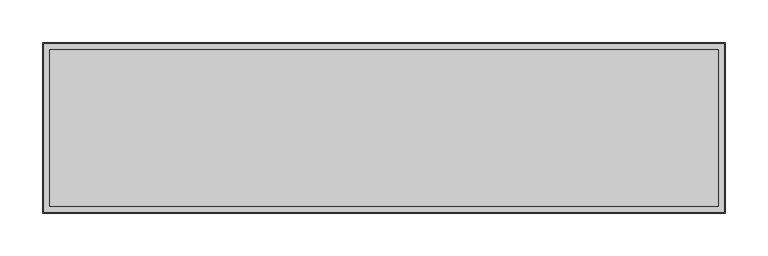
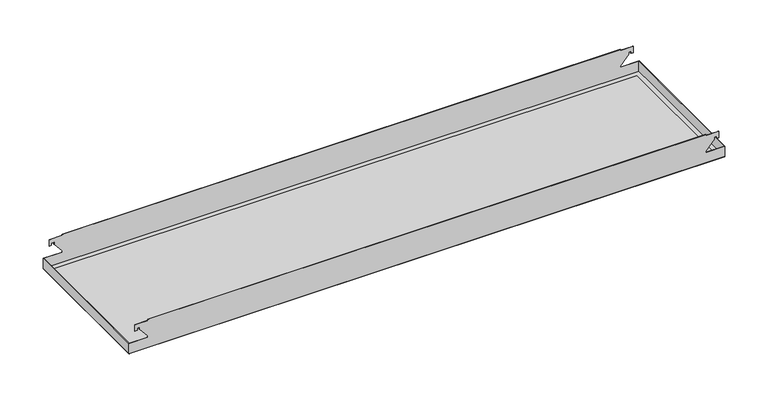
"""IFC4 building model written with IfcOpenShell, lengths in millimetres: proxy geometry, durlum_S10H_panel : durlum_S10H_panel_wall_corner."""

from ifc_helpers import new_model, si_unit, frame, origin, origin_with_axes, place, context, project, spatial, polyline, outline, extrude, faceted_brep, source, transform, mapped, element, save


def generic_models_67fbcb7b(model_context):
    return source(origin(), model_context, "Body", "SolidModel", [
        faceted_brep([(374.2747768, -99.75, 40.0), (374.2747768, -99.15, 40.0), (-374.2747768, -99.15, 40.0), (-374.2747768, -99.75, 40.0), (374.2747768, 99.15, 40.0), (374.2747768, 99.75, 40.0), (-374.2747768, 99.75, 40.0), (-374.2747768, 99.15, 40.0), (399.75, 99.75, 0.6), (399.75, -99.75, 0.6), (-399.75, -99.75, 0.6), (-399.75, 99.75, 0.6), (399.15, 99.15, 0.6), (-399.15, 99.15, 0.6), (-399.15, -99.15, 0.6), (399.15, -99.15, 0.6), (-399.75, 99.75, 14.6527788), (-374.2747768, 99.75, 14.6527788), (-374.2747768, 99.75, 16.6023513), (-385.3561673, 99.75, 29.8086382), (-385.3561673, 99.75, 32.5809806), (-388.8907761, 99.75, 32.5809806), (-388.8907761, 99.75, 29.4726287), (-391.75, 99.75, 29.4726287), (-391.75, 99.75, 38.4781412), (-374.2747768, 99.75, 38.4781412), (374.2747768, 99.75, 38.4781412), (391.75, 99.75, 38.4781412), (391.75, 99.75, 29.4726287), (388.8907761, 99.75, 29.4726287), (388.8907761, 99.75, 32.5809806), (385.3561673, 99.75, 32.5809806), (385.3561673, 99.75, 29.8086382), (374.2747768, 99.75, 16.6023513), (374.2747768, 99.75, 14.6527788), (399.75, 99.75, 14.6527788), (-399.75, -99.75, 14.6527788), (399.75, -99.75, 14.6527788), (374.2747768, -99.75, 14.6527788), (374.2747768, -99.75, 16.6023513), (385.3561673, -99.75, 29.8086382), (385.3561673, -99.75, 32.5809806), (388.8907761, -99.75, 32.5809806), (388.8907761, -99.75, 29.4726287), (391.75, -99.75, 29.4726287), (391.75, -99.75, 38.4781412), (374.2747768, -99.75, 38.4781412), (-374.2747768, -99.75, 38.4781412), (-391.75, -99.75, 38.4781412), (-391.75, -99.75, 29.4726287), (-388.8907761, -99.75, 29.4726287), (-388.8907761, -99.75, 32.5809806), (-385.3561673, -99.75, 32.5809806), (-385.3561673, -99.75, 29.8086382), (-374.2747768, -99.75, 16.6023513), (-374.2747768, -99.75, 14.6527788), (399.15, -99.15, 14.6527788), (399.15, 99.15, 14.6527788), (-399.15, -99.15, 14.6527788), (-374.2747768, -99.15, 14.6527788), (-374.2747768, -99.15, 16.6023513), (-385.3561673, -99.15, 29.8086382), (-385.3561673, -99.15, 32.5809806), (-388.8907761, -99.15, 32.5809806), (-388.8907761, -99.15, 29.4726287), (-391.75, -99.15, 29.4726287), (-391.75, -99.15, 38.4781412), (-374.2747768, -99.15, 38.4781412), (374.2747768, -99.15, 38.4781412), (391.75, -99.15, 38.4781412), (391.75, -99.15, 29.4726287), (388.8907761, -99.15, 29.4726287), (388.8907761, -99.15, 32.5809806), (385.3561673, -99.15, 32.5809806), (385.3561673, -99.15, 29.8086382), (374.2747768, -99.15, 16.6023513), (374.2747768, -99.15, 14.6527788), (-399.15, 99.15, 14.6527788), (374.2747768, 99.15, 14.6527788), (374.2747768, 99.15, 16.6023513), (385.3561673, 99.15, 29.8086382), (385.3561673, 99.15, 32.5809806), (388.8907761, 99.15, 32.5809806), (388.8907761, 99.15, 29.4726287), (391.75, 99.15, 29.4726287), (391.75, 99.15, 38.4781412), (374.2747768, 99.15, 38.4781412), (-374.2747768, 99.15, 38.4781412), (-391.75, 99.15, 38.4781412), (-391.75, 99.15, 29.4726287), (-388.8907761, 99.15, 29.4726287), (-388.8907761, 99.15, 32.5809806), (-385.3561673, 99.15, 32.5809806), (-385.3561673, 99.15, 29.8086382), (-374.2747768, 99.15, 16.6023513), (-374.2747768, 99.15, 14.6527788)], [[[0, 1, 2, 3]], [[4, 5, 6, 7]], [[8, 9, 10, 11], [12, 13, 14, 15]], [[8, 11, 16, 17, 18, 19, 20, 21, 22, 23, 24, 25, 6, 5, 26, 27, 28, 29, 30, 31, 32, 33, 34, 35]], [[11, 10, 36, 16]], [[10, 9, 37, 38, 39, 40, 41, 42, 43, 44, 45, 46, 0, 3, 47, 48, 49, 50, 51, 52, 53, 54, 55, 36]], [[9, 8, 35, 37]], [[12, 15, 56, 57]], [[15, 14, 58, 59, 60, 61, 62, 63, 64, 65, 66, 67, 2, 1, 68, 69, 70, 71, 72, 73, 74, 75, 76, 56]], [[14, 13, 77, 58]], [[13, 12, 57, 78, 79, 80, 81, 82, 83, 84, 85, 86, 4, 7, 87, 88, 89, 90, 91, 92, 93, 94, 95, 77]], [[68, 46, 45, 69]], [[26, 86, 85, 27]], [[69, 45, 44, 70]], [[27, 85, 84, 28]], [[70, 44, 43, 71]], [[28, 84, 83, 29]], [[71, 43, 42, 72]], [[29, 83, 82, 30]], [[72, 42, 41, 73]], [[30, 82, 81, 31]], [[73, 41, 40, 74]], [[31, 81, 80, 32]], [[74, 40, 39, 75]], [[32, 80, 79, 33]], [[75, 39, 38, 76]], [[33, 79, 78, 34]], [[76, 38, 37, 35, 34, 78, 57, 56]], [[46, 68, 1, 0]], [[86, 26, 5, 4]], [[66, 48, 47, 67]], [[24, 88, 87, 25]], [[48, 66, 65, 49]], [[88, 24, 23, 89]], [[49, 65, 64, 50]], [[89, 23, 22, 90]], [[50, 64, 63, 51]], [[90, 22, 21, 91]], [[51, 63, 62, 52]], [[91, 21, 20, 92]], [[52, 62, 61, 53]], [[92, 20, 19, 93]], [[53, 61, 60, 54]], [[93, 19, 18, 94]], [[54, 60, 59, 55]], [[94, 18, 17, 95]], [[55, 59, 58, 77, 95, 17, 16, 36]], [[67, 47, 3, 2]], [[25, 87, 7, 6]]]),
        extrude(outline(polyline([(391.75, 91.75), (391.75, -91.75), (-391.75, -91.75), (-391.75, 91.75), (391.75, 91.75)])), frame((0.0, 0.0, 0.6), z_axis=(0.0, 0.0, 1.0), x_axis=(1.0, 0.0, 0.0)), (0.0, 0.0, 1.0), 0.6),
        extrude(outline(polyline([(399.75, 99.75), (399.75, -99.75), (-399.75, -99.75), (-399.75, 99.75), (399.75, 99.75)]), holes=[polyline([(391.75, 91.75), (-391.75, 91.75), (-391.75, -91.75), (391.75, -91.75), (391.75, 91.75)])]), origin_with_axes(), (0.0, 0.0, 1.0), 0.6),
        extrude(outline(polyline([(391.75, 91.75), (391.75, -91.75), (-391.75, -91.75), (-391.75, 91.75), (391.75, 91.75)])), origin_with_axes(), (0.0, 0.0, 1.0), 0.6),
    ])


if __name__ == "__main__":
    model = new_model("IFC4")
    model_context = context("Model", 3, world=origin())
    ifc_project = project(units=[si_unit("LENGTHUNIT", "METRE", prefix="MILLI")], contexts=[model_context])
    site = spatial("IfcSite", under=ifc_project)
    building = spatial("IfcBuilding", under=site)
    placement = place(None, origin())
    generic_models_shape = generic_models_67fbcb7b(model_context)
    element("IfcBuildingElementProxy", 1, Name="durlum_S10H_panel : durlum_S10H_panel_wall_corner", ObjectType="durlum_S10H_panel : durlum_S10H_panel_wall_corner", at=placement, inside=building, context=model_context, shape_type="MappedRepresentation", body=[
        mapped(generic_models_shape, transform((0.0, 0.0, 0.0), x_axis=(1.0, 0.0, 0.0), y_axis=(0.0, 1.0, 0.0), z_axis=(0.0, 0.0, 1.0))),
    ])
    save(model, "model.ifc")
